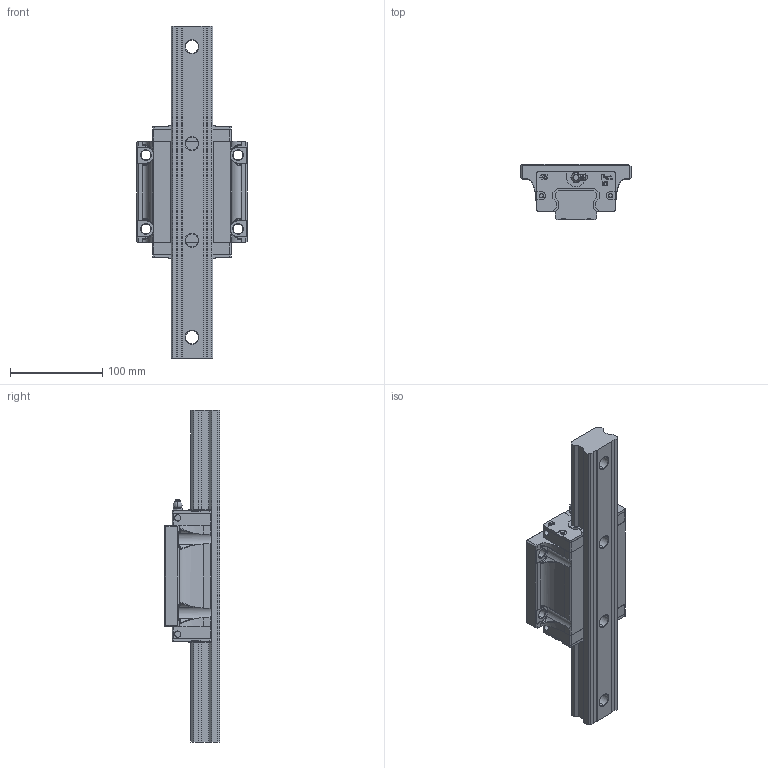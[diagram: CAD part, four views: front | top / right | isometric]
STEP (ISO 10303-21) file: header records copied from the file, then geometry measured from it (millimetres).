
FILE_DESCRIPTION (( 'STEP AP203' ), '1' );
FILE_NAME ('BGCH45FL.STEP', '2025-10-20T07:33:07', ( '' ), ( '' ), 'SwSTEP 2.0', 'SolidWorks 2020', '' );
FILE_SCHEMA (( 'CONFIG_CONTROL_DESIGN' ));
Length unit declared in the file: millimetre
Products named in the file (5): BGCH45FL; BG45端防塵; BGR45-L360; BGXH45FL; NGX04
Assembly tree (5 placements, depth 2):
  BGCH45FL
    BGR45-L360
    BGXH45FL
    BG45端防塵  x2
    NGX04
Bounding box: 119.95 x 60 x 360 mm (x, y, z)
Volume: 956166.4 mm3; surface area: 150246 mm2
Topology: 7 solids, 7 shells, 899 faces, 2438 edges, 1604 vertices
Faces by surface type: plane 610, cylinder 140, bspline 80, cone 57, torus 12
Entity records: 26156 total; most frequent: CARTESIAN_POINT 9987, ORIENTED_EDGE 3426, DIRECTION 2919, EDGE_CURVE 1713, LINE 1179, VECTOR 1179, VERTEX_POINT 1122, AXIS2_PLACEMENT_3D 870
